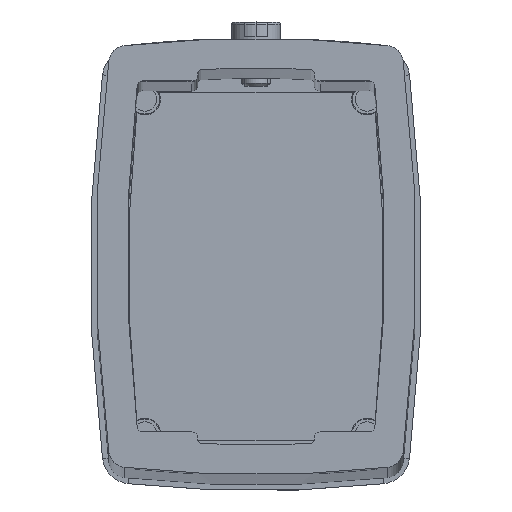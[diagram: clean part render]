
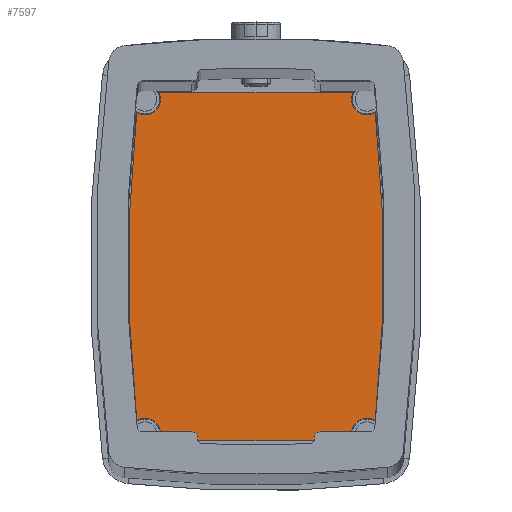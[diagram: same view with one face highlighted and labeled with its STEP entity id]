
A CAD part, top view. The second image highlights one B-rep face of the part: STEP entity #7597.
In plain terms, the highlighted planar face has unit normal (0, 0, 1) as drawn and (0, 1, 0) by its records, which use the part's own axes.
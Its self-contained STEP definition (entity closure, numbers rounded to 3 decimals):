
#6234=CARTESIAN_POINT('',(0.,8.,-227.5));
#6235=DIRECTION('',(0.,1.,0.));
#6236=DIRECTION('',(-0.106,0.,0.994));
#6237=AXIS2_PLACEMENT_3D('',#6234,#6235,#6236);
#6242=CARTESIAN_POINT('',(-28.7,8.,19.05));
#6243=DIRECTION('',(0.,-1.,0.));
#6244=DIRECTION('',(1.,0.,0.));
#6245=AXIS2_PLACEMENT_3D('',#6242,#6243,#6244);
#6250=CARTESIAN_POINT('',(-28.7,8.,19.05));
#6251=DIRECTION('',(0.,-1.,0.));
#6252=DIRECTION('',(-0.453,0.,-0.892));
#6253=AXIS2_PLACEMENT_3D('',#6250,#6251,#6252);
#6258=DIRECTION('',(0.,0.,-1.));
#6259=VECTOR('',#6258,33.375);
#6260=CARTESIAN_POINT('',(-29.9,8.,16.687));
#6261=LINE('',#6260,#6259);
#6265=CARTESIAN_POINT('',(-28.7,8.,-19.05));
#6266=DIRECTION('',(0.,-1.,0.));
#6267=DIRECTION('',(1.,0.,0.));
#6268=AXIS2_PLACEMENT_3D('',#6265,#6266,#6267);
#6273=CARTESIAN_POINT('',(-28.7,8.,-19.05));
#6274=DIRECTION('',(0.,-1.,0.));
#6275=DIRECTION('',(0.839,0.,-0.544));
#6276=AXIS2_PLACEMENT_3D('',#6273,#6274,#6275);
#6281=CARTESIAN_POINT('',(0.,8.,227.5));
#6282=DIRECTION('',(0.,1.,0.));
#6283=DIRECTION('',(0.106,0.,-0.994));
#6284=AXIS2_PLACEMENT_3D('',#6281,#6282,#6283);
#6289=CARTESIAN_POINT('',(28.7,8.,-19.05));
#6290=DIRECTION('',(0.,-1.,0.));
#6291=DIRECTION('',(-1.,0.,0.));
#6292=AXIS2_PLACEMENT_3D('',#6289,#6290,#6291);
#6297=CARTESIAN_POINT('',(28.7,8.,-19.05));
#6298=DIRECTION('',(0.,-1.,0.));
#6299=DIRECTION('',(0.453,0.,0.892));
#6300=AXIS2_PLACEMENT_3D('',#6297,#6298,#6299);
#6305=DIRECTION('',(0.,0.,1.));
#6306=VECTOR('',#6305,33.375);
#6307=CARTESIAN_POINT('',(29.9,8.,-16.687));
#6308=LINE('',#6307,#6306);
#6312=CARTESIAN_POINT('',(28.7,8.,19.05));
#6313=DIRECTION('',(0.,-1.,0.));
#6314=DIRECTION('',(-1.,0.,0.));
#6315=AXIS2_PLACEMENT_3D('',#6312,#6313,#6314);
#6320=CARTESIAN_POINT('',(28.7,8.,19.05));
#6321=DIRECTION('',(0.,-1.,0.));
#6322=DIRECTION('',(-0.839,0.,0.544));
#6323=AXIS2_PLACEMENT_3D('',#6320,#6321,#6322);
#6864=CARTESIAN_POINT('',(-26.476,8.,20.491));
#6865=CARTESIAN_POINT('',(26.476,8.,20.491));
#6866=VERTEX_POINT('',#6864);
#6867=VERTEX_POINT('',#6865);
#6868=CARTESIAN_POINT('',(-29.9,8.,16.687));
#6869=CARTESIAN_POINT('',(-29.9,8.,-16.687));
#6870=VERTEX_POINT('',#6868);
#6871=VERTEX_POINT('',#6869);
#6872=CARTESIAN_POINT('',(26.476,8.,-20.491));
#6873=CARTESIAN_POINT('',(-26.476,8.,-20.491));
#6874=VERTEX_POINT('',#6872);
#6875=VERTEX_POINT('',#6873);
#6876=CARTESIAN_POINT('',(29.9,8.,-16.687));
#6877=CARTESIAN_POINT('',(29.9,8.,16.687));
#6878=VERTEX_POINT('',#6876);
#6879=VERTEX_POINT('',#6877);
#7016=CARTESIAN_POINT('',(-26.05,8.,-19.05));
#7017=VERTEX_POINT('',#7016);
#7018=CARTESIAN_POINT('',(26.05,8.,-19.05));
#7019=VERTEX_POINT('',#7018);
#7020=CARTESIAN_POINT('',(26.05,8.,19.05));
#7021=VERTEX_POINT('',#7020);
#7022=CARTESIAN_POINT('',(-26.05,8.,19.05));
#7023=VERTEX_POINT('',#7022);
#7567=CARTESIAN_POINT('',(0.,8.,0.));
#7568=DIRECTION('',(0.,1.,0.));
#7569=DIRECTION('',(1.,0.,0.));
#7570=AXIS2_PLACEMENT_3D('',#7567,#7568,#7569);
#7571=PLANE('',#7570);
#7572=ORIENTED_EDGE('',*,*,#7550,.F.);
#7574=ORIENTED_EDGE('',*,*,#7573,.F.);
#7576=ORIENTED_EDGE('',*,*,#7575,.F.);
#7578=ORIENTED_EDGE('',*,*,#7577,.T.);
#7580=ORIENTED_EDGE('',*,*,#7579,.F.);
#7582=ORIENTED_EDGE('',*,*,#7581,.F.);
#7584=ORIENTED_EDGE('',*,*,#7583,.F.);
#7586=ORIENTED_EDGE('',*,*,#7585,.F.);
#7588=ORIENTED_EDGE('',*,*,#7587,.F.);
#7590=ORIENTED_EDGE('',*,*,#7589,.T.);
#7592=ORIENTED_EDGE('',*,*,#7591,.F.);
#7594=ORIENTED_EDGE('',*,*,#7593,.F.);
#7595=EDGE_LOOP('',(#7572,#7574,#7576,#7578,#7580,#7582,#7584,#7586,#7588,#7590,
#7592,#7594));
#7596=FACE_OUTER_BOUND('',#7595,.F.);
#6238=CIRCLE('',#6237,249.4);
#6246=CIRCLE('',#6245,2.65);
#6254=CIRCLE('',#6253,2.65);
#6269=CIRCLE('',#6268,2.65);
#6277=CIRCLE('',#6276,2.65);
#6285=CIRCLE('',#6284,249.4);
#6293=CIRCLE('',#6292,2.65);
#6301=CIRCLE('',#6300,2.65);
#6316=CIRCLE('',#6315,2.65);
#6324=CIRCLE('',#6323,2.65);
#7550=EDGE_CURVE('',#6866,#6867,#6238,.T.);
#7573=EDGE_CURVE('',#7023,#6866,#6246,.T.);
#7575=EDGE_CURVE('',#6870,#7023,#6254,.T.);
#7577=EDGE_CURVE('',#6870,#6871,#6261,.T.);
#7579=EDGE_CURVE('',#7017,#6871,#6269,.T.);
#7581=EDGE_CURVE('',#6875,#7017,#6277,.T.);
#7583=EDGE_CURVE('',#6874,#6875,#6285,.T.);
#7585=EDGE_CURVE('',#7019,#6874,#6293,.T.);
#7587=EDGE_CURVE('',#6878,#7019,#6301,.T.);
#7589=EDGE_CURVE('',#6878,#6879,#6308,.T.);
#7591=EDGE_CURVE('',#7021,#6879,#6316,.T.);
#7593=EDGE_CURVE('',#6867,#7021,#6324,.T.);
#7597=ADVANCED_FACE('',(#7596),#7571,.T.);
